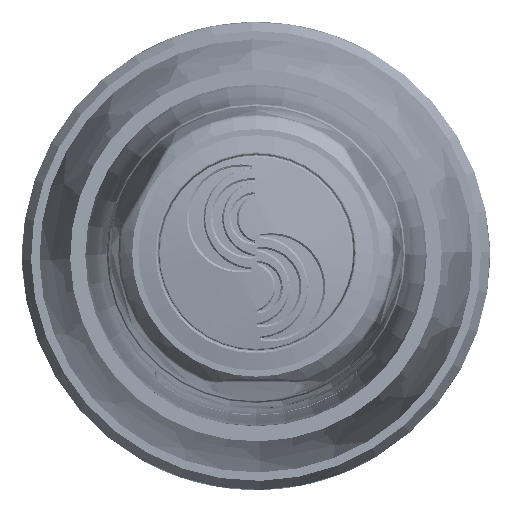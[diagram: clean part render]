
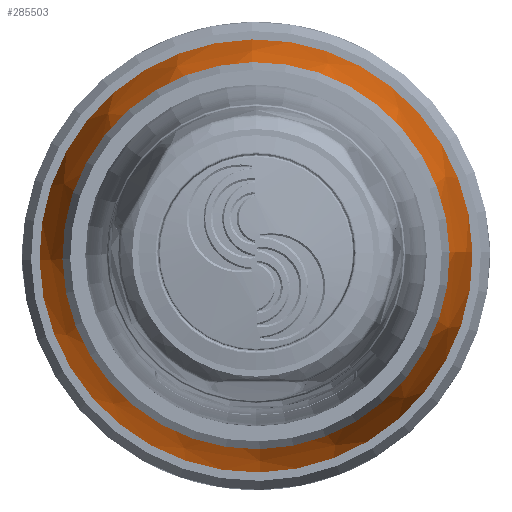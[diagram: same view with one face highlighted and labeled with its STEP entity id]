
A CAD part, top view. The second image highlights one B-rep face of the part: STEP entity #285503.
In plain terms, the highlighted free-form (B-spline) face has degree [2, 2] with [3, 9] control points.
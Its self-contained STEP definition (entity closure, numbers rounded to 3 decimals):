
#386=(
BOUNDED_SURFACE()
B_SPLINE_SURFACE(2,2,((#545572,#545573,#545574,#545575,#545576,#545577,
#545578,#545579,#545580),(#545581,#545582,#545583,#545584,#545585,#545586,
#545587,#545588,#545589),(#545590,#545591,#545592,#545593,#545594,#545595,
#545596,#545597,#545598)),.UNSPECIFIED.,.F.,.T.,.F.)
B_SPLINE_SURFACE_WITH_KNOTS((3,3),(3,2,2,2,3),(0.081,0.383),
(-3.142,-1.571,0.,1.571,3.142),
 .UNSPECIFIED.)
GEOMETRIC_REPRESENTATION_ITEM()
RATIONAL_B_SPLINE_SURFACE(((1.,0.707,1.,0.707,1.,
0.707,1.,0.707,1.),(0.989,0.699,
0.989,0.699,0.989,0.699,
0.989,0.699,0.989),(1.,0.707,
1.,0.707,1.,0.707,1.,0.707,1.)))
REPRESENTATION_ITEM('')
SURFACE()
);
#33625=CIRCLE('',#308110,20.009);
#33630=CIRCLE('',#308117,23.6);
#33631=CIRCLE('',#308118,23.6);
#33632=CIRCLE('',#308119,52.);
#48765=FACE_OUTER_BOUND('',#65897,.T.);
#65897=EDGE_LOOP('',(#237478,#237479,#237480,#237481,#237482));
#130892=VERTEX_POINT('',#545529);
#130896=VERTEX_POINT('',#545567);
#130897=VERTEX_POINT('',#545568);
#167633=EDGE_CURVE('',#130892,#130892,#33625,.T.);
#167638=EDGE_CURVE('',#130896,#130897,#33630,.T.);
#167640=EDGE_CURVE('',#130897,#130896,#33631,.T.);
#167641=EDGE_CURVE('',#130892,#130897,#33632,.T.);
#237478=ORIENTED_EDGE('',*,*,#167633,.F.);
#237479=ORIENTED_EDGE('',*,*,#167641,.T.);
#237480=ORIENTED_EDGE('',*,*,#167640,.T.);
#237481=ORIENTED_EDGE('',*,*,#167638,.T.);
#237482=ORIENTED_EDGE('',*,*,#167641,.F.);
#285503=ADVANCED_FACE('',(#48765),#386,.F.);
#308110=AXIS2_PLACEMENT_3D('',#545530,#362516,#362517);
#308117=AXIS2_PLACEMENT_3D('',#545569,#362530,#362531);
#308118=AXIS2_PLACEMENT_3D('',#545571,#362533,#362534);
#308119=AXIS2_PLACEMENT_3D('',#545599,#362535,#362536);
#362516=DIRECTION('center_axis',(0.,-1.,0.));
#362517=DIRECTION('ref_axis',(1.,0.,0.));
#362530=DIRECTION('center_axis',(0.,-1.,0.));
#362531=DIRECTION('ref_axis',(1.,0.,0.));
#362533=DIRECTION('center_axis',(0.,-1.,0.));
#362534=DIRECTION('ref_axis',(1.,0.,0.));
#362535=DIRECTION('center_axis',(-1.,0.,0.));
#362536=DIRECTION('ref_axis',(0.,0.,1.));
#545529=CARTESIAN_POINT('',(0.,2.,20.009));
#545530=CARTESIAN_POINT('Origin',(0.,2.,0.));
#545567=CARTESIAN_POINT('',(-23.6,17.2,0.));
#545568=CARTESIAN_POINT('',(0.,17.2,23.6));
#545569=CARTESIAN_POINT('Origin',(0.,17.2,0.));
#545571=CARTESIAN_POINT('Origin',(0.,17.2,0.));
#545572=CARTESIAN_POINT('Ctrl Pts',(0.,17.2,23.6));
#545573=CARTESIAN_POINT('Ctrl Pts',(-23.6,17.2,23.6));
#545574=CARTESIAN_POINT('Ctrl Pts',(-23.6,17.2,0.));
#545575=CARTESIAN_POINT('Ctrl Pts',(-23.6,17.2,-23.6));
#545576=CARTESIAN_POINT('Ctrl Pts',(0.,17.2,-23.6));
#545577=CARTESIAN_POINT('Ctrl Pts',(23.6,17.2,-23.6));
#545578=CARTESIAN_POINT('Ctrl Pts',(23.6,17.2,0.));
#545579=CARTESIAN_POINT('Ctrl Pts',(23.6,17.2,23.6));
#545580=CARTESIAN_POINT('Ctrl Pts',(0.,17.2,23.6));
#545581=CARTESIAN_POINT('Ctrl Pts',(0.,9.327,22.959));
#545582=CARTESIAN_POINT('Ctrl Pts',(-22.959,9.327,
22.959));
#545583=CARTESIAN_POINT('Ctrl Pts',(-22.959,9.327,
0.));
#545584=CARTESIAN_POINT('Ctrl Pts',(-22.959,9.327,
-22.959));
#545585=CARTESIAN_POINT('Ctrl Pts',(0.,9.327,-22.959));
#545586=CARTESIAN_POINT('Ctrl Pts',(22.959,9.327,-22.959));
#545587=CARTESIAN_POINT('Ctrl Pts',(22.959,9.327,0.));
#545588=CARTESIAN_POINT('Ctrl Pts',(22.959,9.327,22.959));
#545589=CARTESIAN_POINT('Ctrl Pts',(0.,9.327,22.959));
#545590=CARTESIAN_POINT('Ctrl Pts',(0.,2.,20.009));
#545591=CARTESIAN_POINT('Ctrl Pts',(-20.009,2.,20.009));
#545592=CARTESIAN_POINT('Ctrl Pts',(-20.009,2.,0.));
#545593=CARTESIAN_POINT('Ctrl Pts',(-20.009,2.,-20.009));
#545594=CARTESIAN_POINT('Ctrl Pts',(0.,2.,-20.009));
#545595=CARTESIAN_POINT('Ctrl Pts',(20.009,2.,-20.009));
#545596=CARTESIAN_POINT('Ctrl Pts',(20.009,2.,0.));
#545597=CARTESIAN_POINT('Ctrl Pts',(20.009,2.,20.009));
#545598=CARTESIAN_POINT('Ctrl Pts',(0.,2.,20.009));
#545599=CARTESIAN_POINT('Origin',(0.,21.419,
-28.229));
